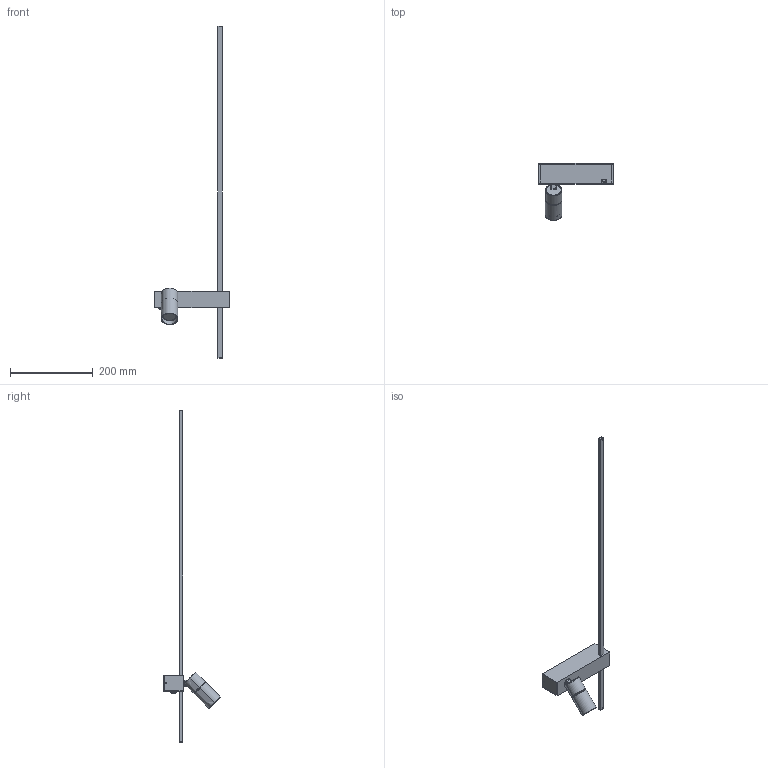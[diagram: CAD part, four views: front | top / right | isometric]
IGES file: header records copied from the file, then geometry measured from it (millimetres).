
Start section: SolidWorks IGES file using analytic representation for surfaces
Global section: file name: C:\Users\anna.bielnik\Desktop\EASY RIGHT\EASY-RIGHT-BLACK\EASY RIGHT pm.IGS; native system: SolidWorks 2023; preprocessor: SolidWorks 2023; author: anna.bielnik; date: 241114.103823; units: millimetre
Bounding box: 180 x 138.77 x 804 mm (x, y, z)
Surface area: 164784.8 mm2 (no closed solid volume)
Topology: 0 solids, 0 shells, 547 faces, 5202 edges, 5202 vertices
Faces by surface type: bspline 401, revolution 146
